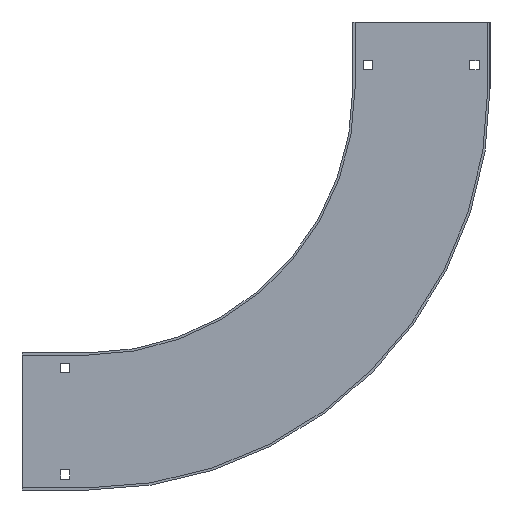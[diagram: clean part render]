
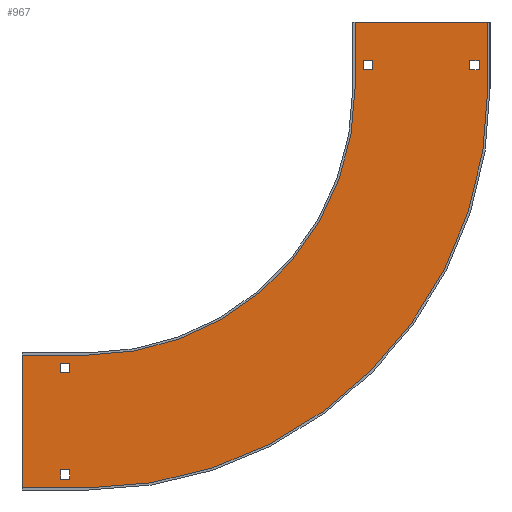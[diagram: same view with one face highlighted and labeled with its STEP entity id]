
A CAD part, left-side view. The second image highlights one B-rep face of the part: STEP entity #967.
In plain terms, the highlighted planar face has unit normal (-1, 0, 0) as drawn and (1, 0, 0) by its records, which use the part's own axes.
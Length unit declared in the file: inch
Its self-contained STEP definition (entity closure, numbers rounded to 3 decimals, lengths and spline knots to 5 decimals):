
#9=DIRECTION('',(0.,1.,0.));
#10=VECTOR('',#9,6.02);
#11=CARTESIAN_POINT('',(0.1,0.1,0.));
#12=LINE('',#11,#10);
#194=DIRECTION('',(0.,0.,1.));
#195=VECTOR('',#194,3.);
#196=CARTESIAN_POINT('',(0.1,6.12,0.));
#197=LINE('',#196,#195);
#198=DIRECTION('',(0.,0.,1.));
#199=VECTOR('',#198,3.);
#200=CARTESIAN_POINT('',(0.1,0.1,0.));
#201=LINE('',#200,#199);
#202=CARTESIAN_POINT('',(0.1,-12.,3.));
#203=DIRECTION('',(1.,0.,0.));
#204=DIRECTION('',(0.,1.,0.));
#205=AXIS2_PLACEMENT_3D('',#202,#203,#204);
#207=DIRECTION('',(0.,-1.,0.));
#208=VECTOR('',#207,3.);
#209=CARTESIAN_POINT('',(0.1,-12.,15.1));
#210=LINE('',#209,#208);
#211=DIRECTION('',(0.,1.,0.));
#212=VECTOR('',#211,0.41);
#213=CARTESIAN_POINT('',(0.1,0.477,1.755));
#214=LINE('',#213,#212);
#215=DIRECTION('',(0.,0.,1.));
#216=VECTOR('',#215,0.41);
#217=CARTESIAN_POINT('',(0.1,0.887,1.755));
#218=LINE('',#217,#216);
#219=DIRECTION('',(0.,-1.,0.));
#220=VECTOR('',#219,0.41);
#221=CARTESIAN_POINT('',(0.1,0.887,2.165));
#222=LINE('',#221,#220);
#223=DIRECTION('',(0.,0.,-1.));
#224=VECTOR('',#223,0.41);
#225=CARTESIAN_POINT('',(0.1,0.477,2.165));
#226=LINE('',#225,#224);
#227=DIRECTION('',(0.,1.,0.));
#228=VECTOR('',#227,0.41);
#229=CARTESIAN_POINT('',(0.1,5.312,1.755));
#230=LINE('',#229,#228);
#231=DIRECTION('',(0.,0.,1.));
#232=VECTOR('',#231,0.41);
#233=CARTESIAN_POINT('',(0.1,5.722,1.755));
#234=LINE('',#233,#232);
#235=DIRECTION('',(0.,-1.,0.));
#236=VECTOR('',#235,0.41);
#237=CARTESIAN_POINT('',(0.1,5.722,2.165));
#238=LINE('',#237,#236);
#239=DIRECTION('',(0.,0.,-1.));
#240=VECTOR('',#239,0.41);
#241=CARTESIAN_POINT('',(0.1,5.312,2.165));
#242=LINE('',#241,#240);
#243=DIRECTION('',(0.,1.,0.));
#244=VECTOR('',#243,0.41);
#245=CARTESIAN_POINT('',(0.1,-13.245,15.477));
#246=LINE('',#245,#244);
#247=DIRECTION('',(0.,0.,1.));
#248=VECTOR('',#247,0.41);
#249=CARTESIAN_POINT('',(0.1,-12.835,15.477));
#250=LINE('',#249,#248);
#251=DIRECTION('',(0.,-1.,0.));
#252=VECTOR('',#251,0.41);
#253=CARTESIAN_POINT('',(0.1,-12.835,15.887));
#254=LINE('',#253,#252);
#255=DIRECTION('',(0.,0.,-1.));
#256=VECTOR('',#255,0.41);
#257=CARTESIAN_POINT('',(0.1,-13.245,15.887));
#258=LINE('',#257,#256);
#259=DIRECTION('',(0.,1.,0.));
#260=VECTOR('',#259,0.41);
#261=CARTESIAN_POINT('',(0.1,-13.245,20.312));
#262=LINE('',#261,#260);
#263=DIRECTION('',(0.,0.,1.));
#264=VECTOR('',#263,0.41);
#265=CARTESIAN_POINT('',(0.1,-12.835,20.312));
#266=LINE('',#265,#264);
#267=DIRECTION('',(0.,-1.,0.));
#268=VECTOR('',#267,0.41);
#269=CARTESIAN_POINT('',(0.1,-12.835,20.722));
#270=LINE('',#269,#268);
#271=DIRECTION('',(0.,0.,-1.));
#272=VECTOR('',#271,0.41);
#273=CARTESIAN_POINT('',(0.1,-13.245,20.722));
#274=LINE('',#273,#272);
#336=DIRECTION('',(0.,0.,1.));
#337=VECTOR('',#336,6.02);
#338=CARTESIAN_POINT('',(0.1,-15.,15.1));
#339=LINE('',#338,#337);
#416=DIRECTION('',(0.,-1.,0.));
#417=VECTOR('',#416,3.);
#418=CARTESIAN_POINT('',(0.1,-12.,21.12));
#419=LINE('',#418,#417);
#424=CARTESIAN_POINT('',(0.1,-12.,3.));
#425=DIRECTION('',(1.,0.,0.));
#426=DIRECTION('',(0.,1.,0.));
#427=AXIS2_PLACEMENT_3D('',#424,#425,#426);
#497=CARTESIAN_POINT('',(0.1,0.1,0.));
#498=VERTEX_POINT('',#497);
#499=CARTESIAN_POINT('',(0.1,6.12,0.));
#500=VERTEX_POINT('',#499);
#518=CARTESIAN_POINT('',(0.1,0.1,3.));
#520=VERTEX_POINT('',#518);
#521=CARTESIAN_POINT('',(0.1,6.12,3.));
#523=VERTEX_POINT('',#521);
#542=CARTESIAN_POINT('',(0.1,-12.,15.1));
#544=VERTEX_POINT('',#542);
#545=CARTESIAN_POINT('',(0.1,-12.,21.12));
#547=VERTEX_POINT('',#545);
#569=CARTESIAN_POINT('',(0.1,-15.,15.1));
#570=VERTEX_POINT('',#569);
#571=CARTESIAN_POINT('',(0.1,-15.,21.12));
#572=VERTEX_POINT('',#571);
#589=CARTESIAN_POINT('',(0.1,0.477,1.755));
#590=CARTESIAN_POINT('',(0.1,0.887,1.755));
#591=VERTEX_POINT('',#589);
#592=VERTEX_POINT('',#590);
#593=CARTESIAN_POINT('',(0.1,0.887,2.165));
#594=VERTEX_POINT('',#593);
#595=CARTESIAN_POINT('',(0.1,0.477,2.165));
#596=VERTEX_POINT('',#595);
#597=CARTESIAN_POINT('',(0.1,5.312,1.755));
#598=CARTESIAN_POINT('',(0.1,5.722,1.755));
#599=VERTEX_POINT('',#597);
#600=VERTEX_POINT('',#598);
#601=CARTESIAN_POINT('',(0.1,5.722,2.165));
#602=VERTEX_POINT('',#601);
#603=CARTESIAN_POINT('',(0.1,5.312,2.165));
#604=VERTEX_POINT('',#603);
#621=CARTESIAN_POINT('',(0.1,-13.245,15.477));
#622=CARTESIAN_POINT('',(0.1,-12.835,15.477));
#623=VERTEX_POINT('',#621);
#624=VERTEX_POINT('',#622);
#625=CARTESIAN_POINT('',(0.1,-12.835,15.887));
#626=VERTEX_POINT('',#625);
#627=CARTESIAN_POINT('',(0.1,-13.245,15.887));
#628=VERTEX_POINT('',#627);
#629=CARTESIAN_POINT('',(0.1,-13.245,20.312));
#630=CARTESIAN_POINT('',(0.1,-12.835,20.312));
#631=VERTEX_POINT('',#629);
#632=VERTEX_POINT('',#630);
#633=CARTESIAN_POINT('',(0.1,-12.835,20.722));
#634=VERTEX_POINT('',#633);
#635=CARTESIAN_POINT('',(0.1,-13.245,20.722));
#636=VERTEX_POINT('',#635);
#906=CARTESIAN_POINT('',(0.1,0.1,0.));
#907=DIRECTION('',(1.,0.,0.));
#908=DIRECTION('',(0.,1.,0.));
#909=AXIS2_PLACEMENT_3D('',#906,#907,#908);
#910=PLANE('',#909);
#911=ORIENTED_EDGE('',*,*,#662,.F.);
#913=ORIENTED_EDGE('',*,*,#912,.T.);
#915=ORIENTED_EDGE('',*,*,#914,.T.);
#917=ORIENTED_EDGE('',*,*,#916,.T.);
#919=ORIENTED_EDGE('',*,*,#918,.T.);
#921=ORIENTED_EDGE('',*,*,#920,.F.);
#923=ORIENTED_EDGE('',*,*,#922,.F.);
#924=ORIENTED_EDGE('',*,*,#898,.F.);
#925=EDGE_LOOP('',(#911,#913,#915,#917,#919,#921,#923,#924));
#926=FACE_OUTER_BOUND('',#925,.F.);
#928=ORIENTED_EDGE('',*,*,#927,.T.);
#930=ORIENTED_EDGE('',*,*,#929,.T.);
#932=ORIENTED_EDGE('',*,*,#931,.T.);
#934=ORIENTED_EDGE('',*,*,#933,.T.);
#935=EDGE_LOOP('',(#928,#930,#932,#934));
#936=FACE_BOUND('',#935,.F.);
#938=ORIENTED_EDGE('',*,*,#937,.T.);
#940=ORIENTED_EDGE('',*,*,#939,.T.);
#942=ORIENTED_EDGE('',*,*,#941,.T.);
#944=ORIENTED_EDGE('',*,*,#943,.T.);
#945=EDGE_LOOP('',(#938,#940,#942,#944));
#946=FACE_BOUND('',#945,.F.);
#948=ORIENTED_EDGE('',*,*,#947,.T.);
#950=ORIENTED_EDGE('',*,*,#949,.T.);
#952=ORIENTED_EDGE('',*,*,#951,.T.);
#954=ORIENTED_EDGE('',*,*,#953,.T.);
#955=EDGE_LOOP('',(#948,#950,#952,#954));
#956=FACE_BOUND('',#955,.F.);
#958=ORIENTED_EDGE('',*,*,#957,.T.);
#960=ORIENTED_EDGE('',*,*,#959,.T.);
#962=ORIENTED_EDGE('',*,*,#961,.T.);
#964=ORIENTED_EDGE('',*,*,#963,.T.);
#965=EDGE_LOOP('',(#958,#960,#962,#964));
#966=FACE_BOUND('',#965,.F.);
#967=ADVANCED_FACE('',(#926,#936,#946,#956,#966),#910,.T.);
#206=CIRCLE('',#205,12.1);
#428=CIRCLE('',#427,18.12);
#662=EDGE_CURVE('',#498,#500,#12,.T.);
#898=EDGE_CURVE('',#500,#523,#197,.T.);
#912=EDGE_CURVE('',#498,#520,#201,.T.);
#914=EDGE_CURVE('',#520,#544,#206,.T.);
#916=EDGE_CURVE('',#544,#570,#210,.T.);
#918=EDGE_CURVE('',#570,#572,#339,.T.);
#920=EDGE_CURVE('',#547,#572,#419,.T.);
#922=EDGE_CURVE('',#523,#547,#428,.T.);
#927=EDGE_CURVE('',#591,#592,#214,.T.);
#929=EDGE_CURVE('',#592,#594,#218,.T.);
#931=EDGE_CURVE('',#594,#596,#222,.T.);
#933=EDGE_CURVE('',#596,#591,#226,.T.);
#937=EDGE_CURVE('',#599,#600,#230,.T.);
#939=EDGE_CURVE('',#600,#602,#234,.T.);
#941=EDGE_CURVE('',#602,#604,#238,.T.);
#943=EDGE_CURVE('',#604,#599,#242,.T.);
#947=EDGE_CURVE('',#623,#624,#246,.T.);
#949=EDGE_CURVE('',#624,#626,#250,.T.);
#951=EDGE_CURVE('',#626,#628,#254,.T.);
#953=EDGE_CURVE('',#628,#623,#258,.T.);
#957=EDGE_CURVE('',#631,#632,#262,.T.);
#959=EDGE_CURVE('',#632,#634,#266,.T.);
#961=EDGE_CURVE('',#634,#636,#270,.T.);
#963=EDGE_CURVE('',#636,#631,#274,.T.);
